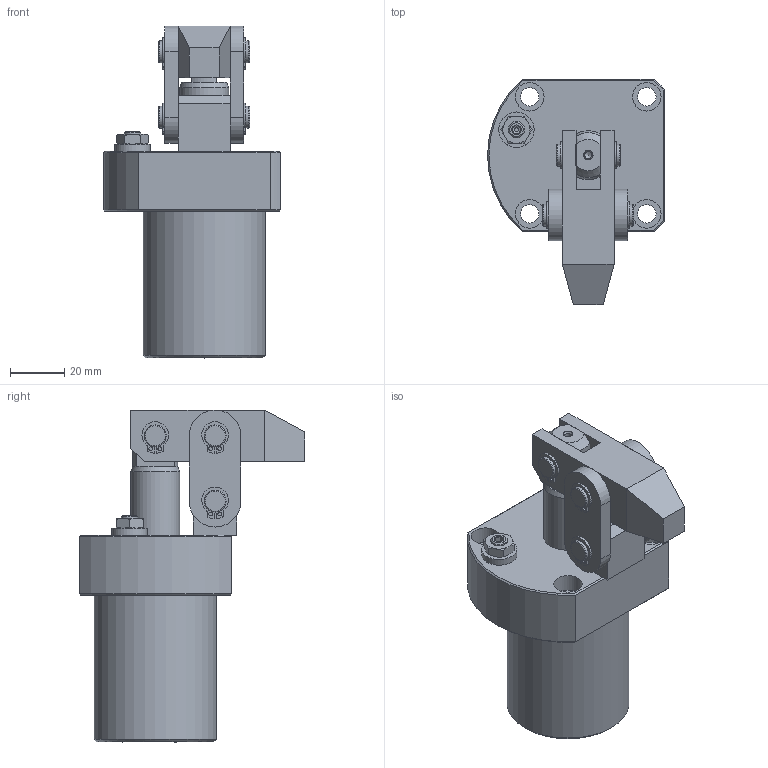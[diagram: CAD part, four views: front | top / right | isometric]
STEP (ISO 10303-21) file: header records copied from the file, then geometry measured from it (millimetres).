
FILE_DESCRIPTION(/* description */ ('Unknown'),/* implementation_level */ '2;1');
FILE_NAME(/* name */ 'HLB-FCM25-R-A',/* time_stamp */ '2025-05-08T15:37:23+08:00',/* author */ ('Unknown'),/* organization */ ('Unknown'),/* preprocessor_version */ 'ST-DEVELOPER v16.7',/* originating_system */ 'DEX',/* authorisation */ $);
FILE_SCHEMA (('AUTOMOTIVE_DESIGN {1 0 10303 214 3 1 1}'));
Length unit declared in the file: millimetre
Products named in the file (8): HLB-FCM25-R-A; HLB-FCM25-R-CYLINDER; HLB-25-ｹﾔBﾟ; HLB-25-A; HLB-2502-AXLE CENTRE; HLB-25-Cｦｩ｣迺ｰ; HLB-25-PINｵuｭ; HLB-25-PINªø-
Assembly tree (14 placements, depth 2):
  HLB-FCM25-R-A
    HLB-FCM25-R-CYLINDER
    HLB-25-ｹﾔBﾟ  x2
    HLB-25-A
    HLB-2502-AXLE CENTRE
    HLB-25-Cｦｩ｣迺ｰ  x6
    HLB-25-PINｵuｭ
    HLB-25-PINªø-  x2
Bounding box: 65 x 83 x 122 mm (x, y, z)
Volume: 185227.8 mm3; surface area: 47507.7 mm2
Topology: 14 solids, 14 shells, 287 faces, 666 edges, 437 vertices
Faces by surface type: plane 126, cylinder 115, cone 26, bspline 12, torus 8
Full cylindrical faces by diameter (mm): 1.4 x12, 2 x2, 2.6 x1, 4.1 x2, 6 x1, 6.8 x4, 7.5 x6, 8 x18, 10 x2, 10.5 x4, 13 x1, 18 x2, 25 x2, 45 x1
Entity records: 5186 total; most frequent: CARTESIAN_POINT 1137, DIRECTION 791, ORIENTED_EDGE 674, EDGE_CURVE 337, AXIS2_PLACEMENT_3D 333, FACE_BOUND 298, EDGE_LOOP 297, VERTEX_POINT 251
